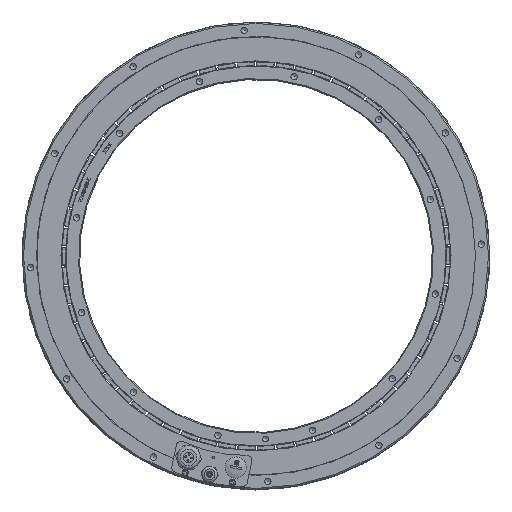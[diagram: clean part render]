
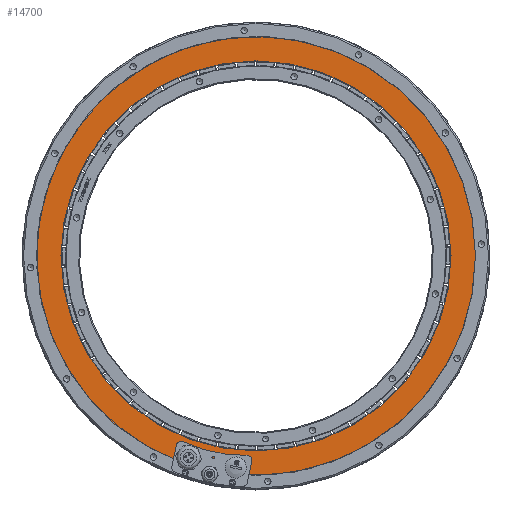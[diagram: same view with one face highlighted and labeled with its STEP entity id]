
A CAD part, top view. The second image highlights one B-rep face of the part: STEP entity #14700.
In plain terms, the highlighted planar face has unit normal (0, 0, 1).
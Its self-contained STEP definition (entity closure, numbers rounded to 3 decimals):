
#1234=PLANE('',#15903);
#4172=ORIENTED_EDGE('',*,*,#6356,.T.);
#4173=ORIENTED_EDGE('',*,*,#6358,.F.);
#6356=EDGE_CURVE('',#7668,#7668,#8556,.T.);
#6358=EDGE_CURVE('',#7670,#7670,#8558,.T.);
#7668=VERTEX_POINT('',#21840);
#7670=VERTEX_POINT('',#21845);
#8556=CIRCLE('',#15898,202.2);
#8558=CIRCLE('',#15901,227.5);
#9286=EDGE_LOOP('',(#4172));
#9287=EDGE_LOOP('',(#4173));
#10332=FACE_BOUND('',#9286,.T.);
#10333=FACE_BOUND('',#9287,.T.);
#14700=ADVANCED_FACE('',(#10332,#10333),#1234,.F.);
#15898=AXIS2_PLACEMENT_3D('',#21839,#18341,#18342);
#15901=AXIS2_PLACEMENT_3D('',#21844,#18347,#18348);
#15903=AXIS2_PLACEMENT_3D('',#21848,#18351,#18352);
#18341=DIRECTION('',(0.,0.,-1.));
#18342=DIRECTION('',(1.,0.,0.));
#18347=DIRECTION('',(0.,0.,-1.));
#18348=DIRECTION('',(1.,0.,0.));
#18351=DIRECTION('',(0.,0.,-1.));
#18352=DIRECTION('',(-1.,0.,0.));
#21839=CARTESIAN_POINT('',(0.,0.,52.5));
#21840=CARTESIAN_POINT('',(202.2,0.,52.5));
#21844=CARTESIAN_POINT('',(0.,0.,52.5));
#21845=CARTESIAN_POINT('',(227.5,0.,52.5));
#21848=CARTESIAN_POINT('',(0.,0.,52.5));
